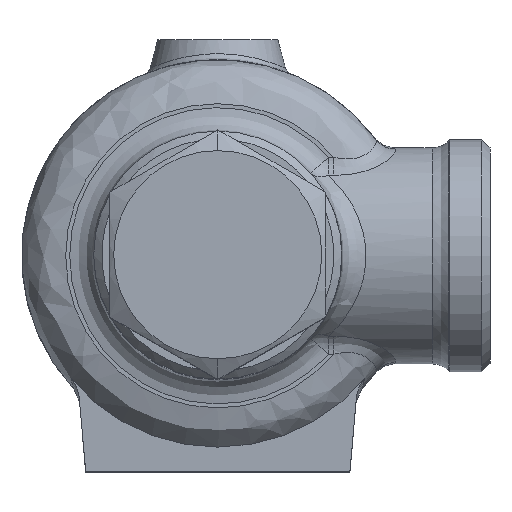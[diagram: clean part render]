
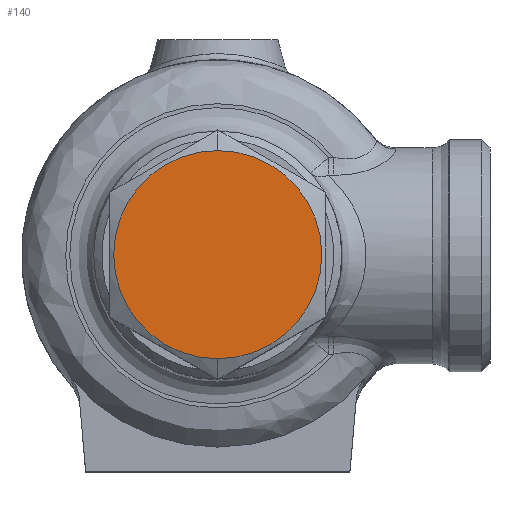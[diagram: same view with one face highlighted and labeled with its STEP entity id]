
A CAD part, top view. The second image highlights one B-rep face of the part: STEP entity #140.
In plain terms, the highlighted planar face has unit normal (0, 0, 1) as drawn and (0, 1, 0) by its records, which use the part's own axes.
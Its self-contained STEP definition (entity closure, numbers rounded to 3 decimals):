
#140=ADVANCED_FACE('',(#846),#845,.T.);
#845=PLANE('',#2451);
#846=FACE_OUTER_BOUND('',#2452,.T.);
#2448=CARTESIAN_POINT('',(-27.02,88.,-29.9));
#2449=DIRECTION('',(0.,1.,0.));
#2450=DIRECTION('',(0.,0.,1.));
#2451=AXIS2_PLACEMENT_3D('',#2448,#2449,#2450);
#2452=EDGE_LOOP('',(#3399,#3400));
#3399=ORIENTED_EDGE('',*,*,#3842,.T.);
#3400=ORIENTED_EDGE('',*,*,#3843,.T.);
#3842=EDGE_CURVE('',#5229,#5230,#5231,.T.);
#3843=EDGE_CURVE('',#5230,#5229,#5237,.T.);
#5229=VERTEX_POINT('',#7039);
#5230=VERTEX_POINT('',#7040);
#5231=CIRCLE('',#7044,13.);
#5237=CIRCLE('',#7048,13.);
#7039=CARTESIAN_POINT('',(0.,88.,13.));
#7040=CARTESIAN_POINT('',(0.,88.,-13.));
#7041=CARTESIAN_POINT('',(0.,88.,0.));
#7042=DIRECTION('',(0.,1.,0.));
#7043=DIRECTION('',(0.,0.,1.));
#7044=AXIS2_PLACEMENT_3D('',#7041,#7042,#7043);
#7045=CARTESIAN_POINT('',(0.,88.,0.));
#7046=DIRECTION('',(0.,1.,0.));
#7047=DIRECTION('',(0.,0.,1.));
#7048=AXIS2_PLACEMENT_3D('',#7045,#7046,#7047);
